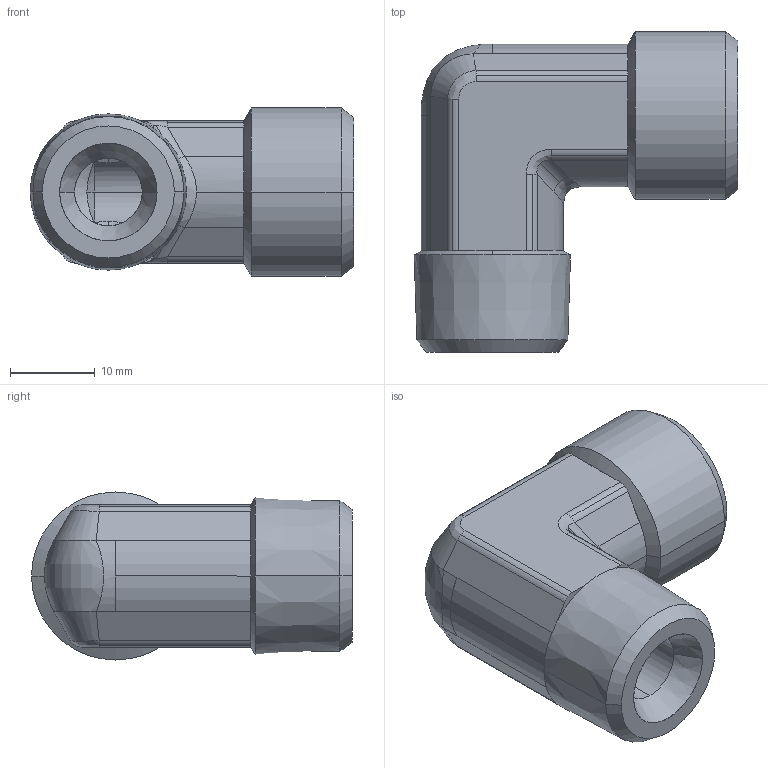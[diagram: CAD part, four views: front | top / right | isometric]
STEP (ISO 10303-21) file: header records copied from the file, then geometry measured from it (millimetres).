
FILE_DESCRIPTION((''),'2;1');
FILE_NAME('102217.stp','2007-10-31T10:28:15',(''),(''),'AutoCAD STEP 2000i','AutoCAD 2000i',', , ');
FILE_SCHEMA(('CONFIG_CONTROL_DESIGN'));
Length unit declared in the file: millimetre
Products named in the file (2): 102217.0; 3090#0
Assembly tree (1 placements, depth 2):
  102217.0
    3090#0
Bounding box: 38.23 x 37.92 x 19.85 mm (x, y, z)
Volume: 10907 mm3; surface area: 5164.2 mm2
Topology: 1 solids, 1 shells, 104 faces, 238 edges, 137 vertices
Faces by surface type: cylinder 42, plane 25, cone 23, bspline 14
Entity records: 3778 total; most frequent: CARTESIAN_POINT 1323, DIRECTION 529, ORIENTED_EDGE 476, EDGE_CURVE 238, AXIS2_PLACEMENT_3D 219, VERTEX_POINT 137, CIRCLE 109, EDGE_LOOP 107
